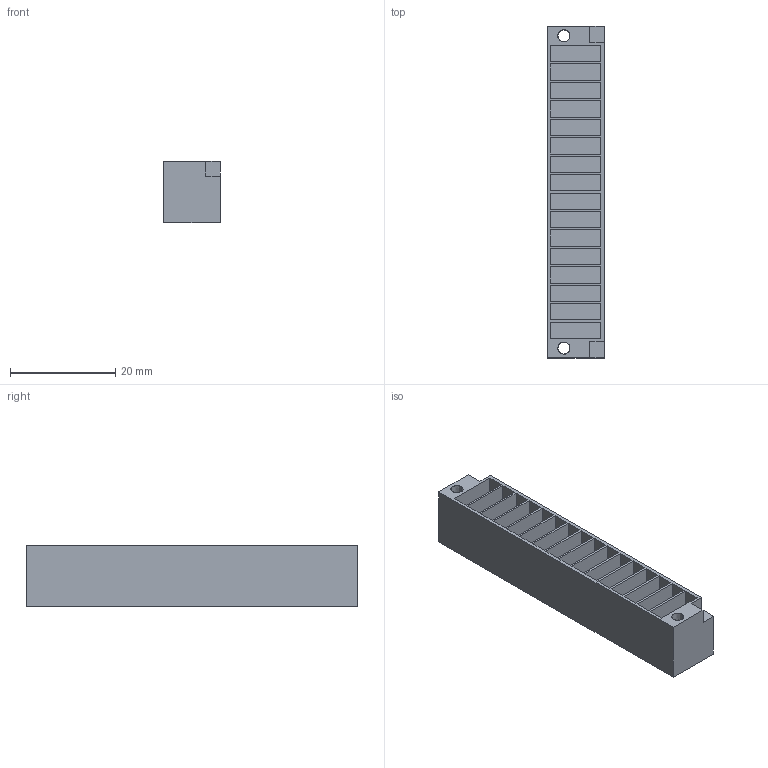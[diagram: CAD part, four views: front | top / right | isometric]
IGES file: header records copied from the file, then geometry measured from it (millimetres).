
Start section:  PTC IGES file: j5d-cn3.igs
Global section: file name: j5d-cn3.igs; native system: Creo Parametric by PTC Inc.; preprocessor: 2020184; author: VX25986; organization: Unknown; date: 20210323.200202; units: millimetre
Bounding box: 10.8 x 63 x 11.6 mm (x, y, z)
Surface area: 6147.2 mm2 (no closed solid volume)
Topology: 0 solids, 0 shells, 96 faces, 468 edges, 468 vertices
Faces by surface type: bspline 96
